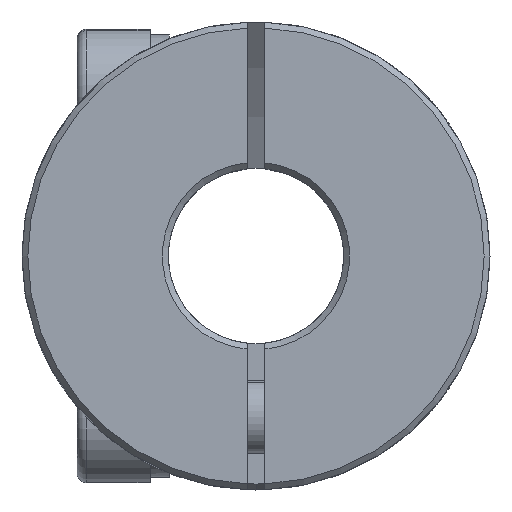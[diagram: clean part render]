
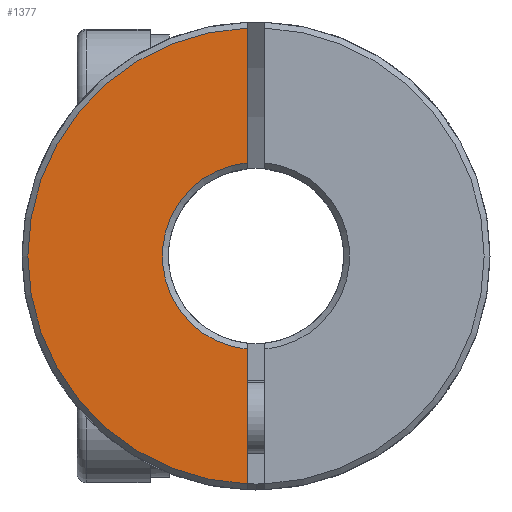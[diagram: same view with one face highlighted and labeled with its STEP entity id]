
A CAD part, front view. The second image highlights one B-rep face of the part: STEP entity #1377.
In plain terms, the highlighted planar face has unit normal (0, -1, 0).
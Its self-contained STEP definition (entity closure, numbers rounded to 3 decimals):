
#18 = DIRECTION ( 'NONE',  ( 0., 0., -1. ) ) ;
#20 = AXIS2_PLACEMENT_3D ( 'NONE', #283, #911, #992 ) ;
#283 = CARTESIAN_POINT ( 'NONE',  ( 0., -15.02, 0. ) ) ;
#513 = DIRECTION ( 'NONE',  ( 0., -1., 0. ) ) ;
#677 = CARTESIAN_POINT ( 'NONE',  ( -0.3, -15.02, -3.186 ) ) ;
#911 = DIRECTION ( 'NONE',  ( 0., 1., 0. ) ) ;
#992 = DIRECTION ( 'NONE',  ( 0., 0., 1. ) ) ;
#1131 = CARTESIAN_POINT ( 'NONE',  ( 0., -15.02, 0. ) ) ;
#1137 = CARTESIAN_POINT ( 'NONE',  ( -0.3, -15.02, 3.186 ) ) ;
#1177 = EDGE_CURVE ( 'NONE', #6684, #5782, #6542, .T. ) ;
#1238 = CARTESIAN_POINT ( 'NONE',  ( -0.3, -15.02, 0. ) ) ;
#1377 = ADVANCED_FACE ( 'NONE', ( #5091 ), #3583, .F. ) ;
#1712 = EDGE_CURVE ( 'NONE', #6684, #3846, #3256, .T. ) ;
#1737 = VERTEX_POINT ( 'NONE', #677 ) ;
#1828 = CARTESIAN_POINT ( 'NONE',  ( -0.3, -15.02, -7.794 ) ) ;
#1845 = ORIENTED_EDGE ( 'NONE', *, *, #1712, .F. ) ;
#1990 = AXIS2_PLACEMENT_3D ( 'NONE', #1131, #513, #5271 ) ;
#2324 = VECTOR ( 'NONE', #4228, 1000. ) ;
#2457 = EDGE_LOOP ( 'NONE', ( #1845, #3009, #5095, #2502 ) ) ;
#2502 = ORIENTED_EDGE ( 'NONE', *, *, #7662, .T. ) ;
#3009 = ORIENTED_EDGE ( 'NONE', *, *, #1177, .T. ) ;
#3020 = CARTESIAN_POINT ( 'NONE',  ( 0., -15.02, 0. ) ) ;
#3256 = LINE ( 'NONE', #1238, #2324 ) ;
#3583 = PLANE ( 'NONE',  #7505 ) ;
#3633 = DIRECTION ( 'NONE',  ( 0., 1., 0. ) ) ;
#3679 = DIRECTION ( 'NONE',  ( 0., 0., 1. ) ) ;
#3846 = VERTEX_POINT ( 'NONE', #1137 ) ;
#3934 = CARTESIAN_POINT ( 'NONE',  ( -0.3, -15.02, 7.794 ) ) ;
#4138 = CIRCLE ( 'NONE', #20, 3.2 ) ;
#4228 = DIRECTION ( 'NONE',  ( 0., 0., -1. ) ) ;
#4404 = EDGE_CURVE ( 'NONE', #1737, #5782, #6465, .T. ) ;
#4913 = VECTOR ( 'NONE', #18, 1000. ) ;
#5091 = FACE_OUTER_BOUND ( 'NONE', #2457, .T. ) ;
#5095 = ORIENTED_EDGE ( 'NONE', *, *, #4404, .F. ) ;
#5271 = DIRECTION ( 'NONE',  ( 0., 0., 1. ) ) ;
#5782 = VERTEX_POINT ( 'NONE', #1828 ) ;
#6465 = LINE ( 'NONE', #7672, #4913 ) ;
#6542 = CIRCLE ( 'NONE', #1990, 7.8 ) ;
#6684 = VERTEX_POINT ( 'NONE', #3934 ) ;
#7505 = AXIS2_PLACEMENT_3D ( 'NONE', #3020, #3633, #3679 ) ;
#7662 = EDGE_CURVE ( 'NONE', #1737, #3846, #4138, .T. ) ;
#7672 = CARTESIAN_POINT ( 'NONE',  ( -0.3, -15.02, 0. ) ) ;
